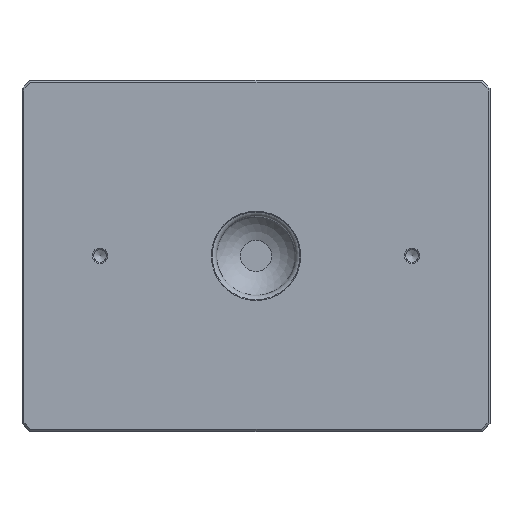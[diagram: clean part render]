
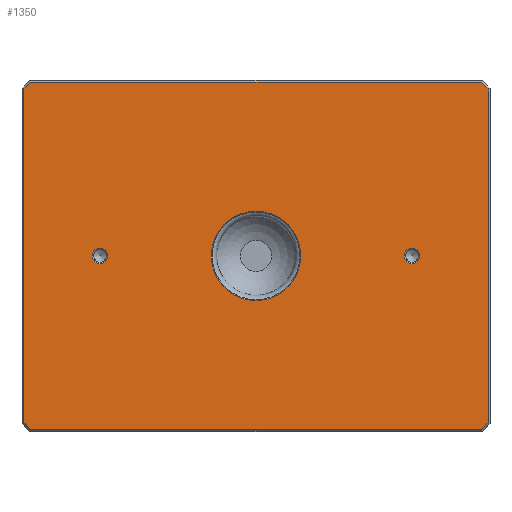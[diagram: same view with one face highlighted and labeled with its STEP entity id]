
A CAD part, top view. The second image highlights one B-rep face of the part: STEP entity #1350.
In plain terms, the highlighted planar face has unit normal (0, 0, 1).
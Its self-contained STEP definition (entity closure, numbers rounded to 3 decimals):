
#69=FACE_BOUND('',#253,.T.);
#70=FACE_BOUND('',#254,.T.);
#71=FACE_BOUND('',#255,.T.);
#92=CIRCLE('',#1466,11.45);
#95=CIRCLE('',#1470,2.);
#96=CIRCLE('',#1471,2.);
#158=FACE_OUTER_BOUND('',#252,.T.);
#252=EDGE_LOOP('',(#895,#896,#897,#898,#899,#900,#901,#902));
#253=EDGE_LOOP('',(#903));
#254=EDGE_LOOP('',(#904));
#255=EDGE_LOOP('',(#905));
#371=LINE('',#2086,#481);
#372=LINE('',#2088,#482);
#373=LINE('',#2090,#483);
#374=LINE('',#2092,#484);
#375=LINE('',#2094,#485);
#376=LINE('',#2096,#486);
#377=LINE('',#2098,#487);
#378=LINE('',#2099,#488);
#481=VECTOR('',#1659,10.);
#482=VECTOR('',#1660,10.);
#483=VECTOR('',#1661,10.);
#484=VECTOR('',#1662,10.);
#485=VECTOR('',#1663,10.);
#486=VECTOR('',#1664,10.);
#487=VECTOR('',#1665,10.);
#488=VECTOR('',#1666,10.);
#591=VERTEX_POINT('',#2076);
#594=VERTEX_POINT('',#2084);
#595=VERTEX_POINT('',#2085);
#596=VERTEX_POINT('',#2087);
#597=VERTEX_POINT('',#2089);
#598=VERTEX_POINT('',#2091);
#599=VERTEX_POINT('',#2093);
#600=VERTEX_POINT('',#2095);
#601=VERTEX_POINT('',#2097);
#602=VERTEX_POINT('',#2100);
#603=VERTEX_POINT('',#2102);
#708=EDGE_CURVE('',#591,#591,#92,.T.);
#712=EDGE_CURVE('',#594,#595,#371,.T.);
#713=EDGE_CURVE('',#596,#594,#372,.T.);
#714=EDGE_CURVE('',#597,#596,#373,.T.);
#715=EDGE_CURVE('',#598,#597,#374,.T.);
#716=EDGE_CURVE('',#599,#598,#375,.T.);
#717=EDGE_CURVE('',#600,#599,#376,.T.);
#718=EDGE_CURVE('',#601,#600,#377,.T.);
#719=EDGE_CURVE('',#595,#601,#378,.T.);
#720=EDGE_CURVE('',#602,#602,#95,.T.);
#721=EDGE_CURVE('',#603,#603,#96,.T.);
#895=ORIENTED_EDGE('',*,*,#712,.F.);
#896=ORIENTED_EDGE('',*,*,#713,.F.);
#897=ORIENTED_EDGE('',*,*,#714,.F.);
#898=ORIENTED_EDGE('',*,*,#715,.F.);
#899=ORIENTED_EDGE('',*,*,#716,.F.);
#900=ORIENTED_EDGE('',*,*,#717,.F.);
#901=ORIENTED_EDGE('',*,*,#718,.F.);
#902=ORIENTED_EDGE('',*,*,#719,.F.);
#903=ORIENTED_EDGE('',*,*,#720,.T.);
#904=ORIENTED_EDGE('',*,*,#721,.T.);
#905=ORIENTED_EDGE('',*,*,#708,.F.);
#1216=PLANE('',#1469);
#1350=ADVANCED_FACE('',(#158,#69,#70,#71),#1216,.T.);
#1466=AXIS2_PLACEMENT_3D('',#2077,#1650,#1651);
#1469=AXIS2_PLACEMENT_3D('',#2083,#1657,#1658);
#1470=AXIS2_PLACEMENT_3D('',#2101,#1667,#1668);
#1471=AXIS2_PLACEMENT_3D('',#2103,#1669,#1670);
#1650=DIRECTION('center_axis',(0.,0.,1.));
#1651=DIRECTION('ref_axis',(0.,-1.,0.));
#1657=DIRECTION('center_axis',(0.,0.,1.));
#1658=DIRECTION('ref_axis',(1.,0.,0.));
#1659=DIRECTION('',(-1.,0.,0.));
#1660=DIRECTION('',(-0.707,-0.707,0.));
#1661=DIRECTION('',(0.,-1.,0.));
#1662=DIRECTION('',(0.707,-0.707,0.));
#1663=DIRECTION('',(1.,0.,0.));
#1664=DIRECTION('',(0.707,0.707,0.));
#1665=DIRECTION('',(0.,1.,0.));
#1666=DIRECTION('',(-0.707,0.707,0.));
#1667=DIRECTION('center_axis',(0.,0.,-1.));
#1668=DIRECTION('ref_axis',(1.,0.,0.));
#1669=DIRECTION('center_axis',(0.,0.,-1.));
#1670=DIRECTION('ref_axis',(1.,0.,0.));
#2076=CARTESIAN_POINT('',(0.,11.45,33.));
#2077=CARTESIAN_POINT('Origin',(0.,0.,33.));
#2083=CARTESIAN_POINT('Origin',(0.,0.,
33.));
#2084=CARTESIAN_POINT('',(57.793,-44.5,33.));
#2085=CARTESIAN_POINT('',(-57.793,-44.5,33.));
#2086=CARTESIAN_POINT('',(30.,-44.5,33.));
#2087=CARTESIAN_POINT('',(59.5,-42.793,33.));
#2088=CARTESIAN_POINT('',(54.896,-47.396,33.));
#2089=CARTESIAN_POINT('',(59.5,42.793,33.));
#2090=CARTESIAN_POINT('',(59.5,22.5,33.));
#2091=CARTESIAN_POINT('',(57.793,44.5,33.));
#2092=CARTESIAN_POINT('',(54.896,47.396,33.));
#2093=CARTESIAN_POINT('',(-57.793,44.5,33.));
#2094=CARTESIAN_POINT('',(-30.,44.5,33.));
#2095=CARTESIAN_POINT('',(-59.5,42.793,33.));
#2096=CARTESIAN_POINT('',(-54.896,47.396,33.));
#2097=CARTESIAN_POINT('',(-59.5,-42.793,33.));
#2098=CARTESIAN_POINT('',(-59.5,-22.5,33.));
#2099=CARTESIAN_POINT('',(-54.896,-47.396,33.));
#2100=CARTESIAN_POINT('',(38.,0.,33.));
#2101=CARTESIAN_POINT('Origin',(40.,0.,33.));
#2102=CARTESIAN_POINT('',(-42.,0.,33.));
#2103=CARTESIAN_POINT('Origin',(-40.,0.,33.));
